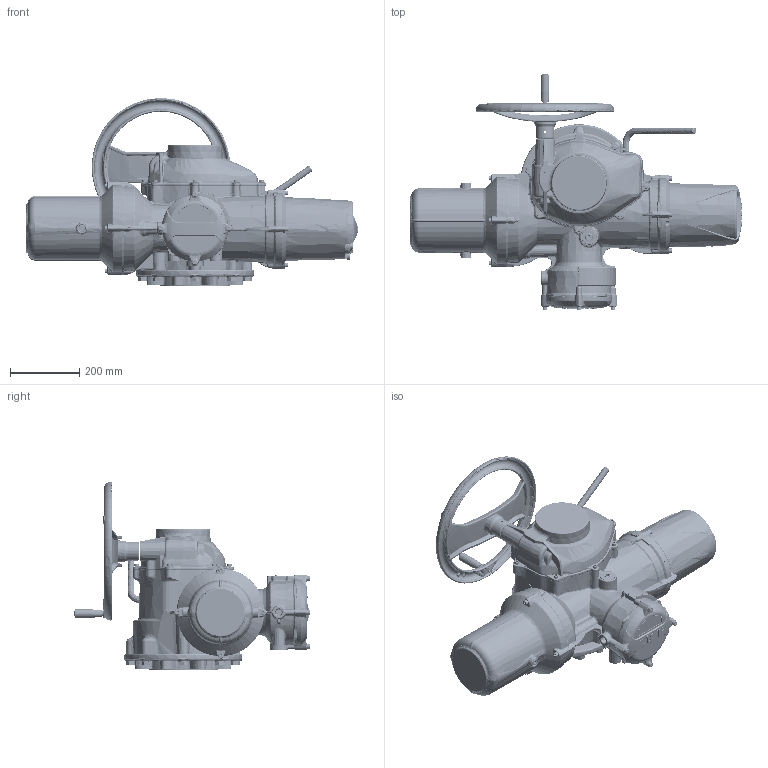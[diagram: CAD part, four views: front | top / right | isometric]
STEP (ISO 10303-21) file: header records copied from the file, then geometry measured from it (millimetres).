
FILE_DESCRIPTION( ( 'Unknown' ), '1' );
FILE_NAME( 'S:/Release/Datasheets for P.E/size45 models for website/II40_SHW_F25_B3B4-1.stp', 'Unknown', ( 'Unknown' ), ( 'Unknown' ), 'PSStep 15.0.49', 'Unknown', ' ' );
FILE_SCHEMA( ( 'AUTOMOTIVE_DESIGN { 1 0 10303 214 1 1 1 1 }' ) );
Length unit declared in the file: millimetre
Products named in the file (9): II45-01-std
Bounding box: 958.3 x 680.05 x 543 mm (x, y, z)
Volume: 916462.2 mm3; surface area: 1638859.3 mm2
Topology: 46 solids, 48 shells, 6904 faces, 17111 edges, 10102 vertices
Faces by surface type: bspline 2617, plane 1719, cylinder 977, torus 703, cone 543, sphere 198, extrusion 108, revolution 21, offset 18
Full cylindrical faces by diameter (mm): 1.152 x1, 3 x10, 3.5 x1, 6 x5, 6.45 x4, 6.47 x4, 6.5 x1, 6.647 x8, 7 x4, 7.6 x4, 8 x21, 8.1 x1, 8.2 x1, 8.3 x2, 8.376 x1, 8.5 x4, 9.7 x1, 10 x1, 12 x2, 12.1 x1, 13 x12, 13.25 x7, 13.548 x1, 13.55 x1, 13.835 x16, 16 x9, 16.75 x1, 17 x8, 18 x2, 20 x2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
Entity records: 696155 total; most frequent: CARTESIAN_POINT 502178, ORIENTED_EDGE 32312, DIRECTION 23847, EDGE_CURVE 16156, AXIS2_PLACEMENT_3D 10037, VERTEX_POINT 9855, EDGE_LOOP 7492, FACE_OUTER_BOUND 7156
